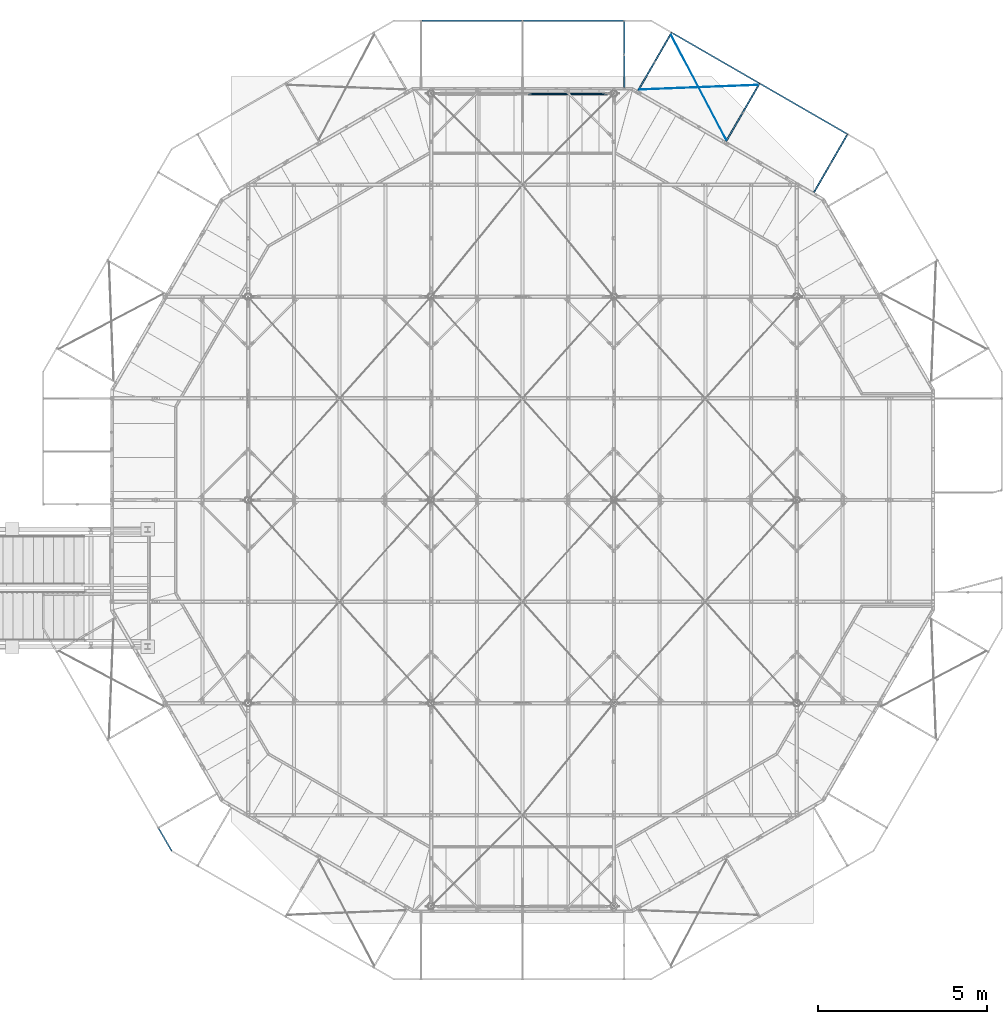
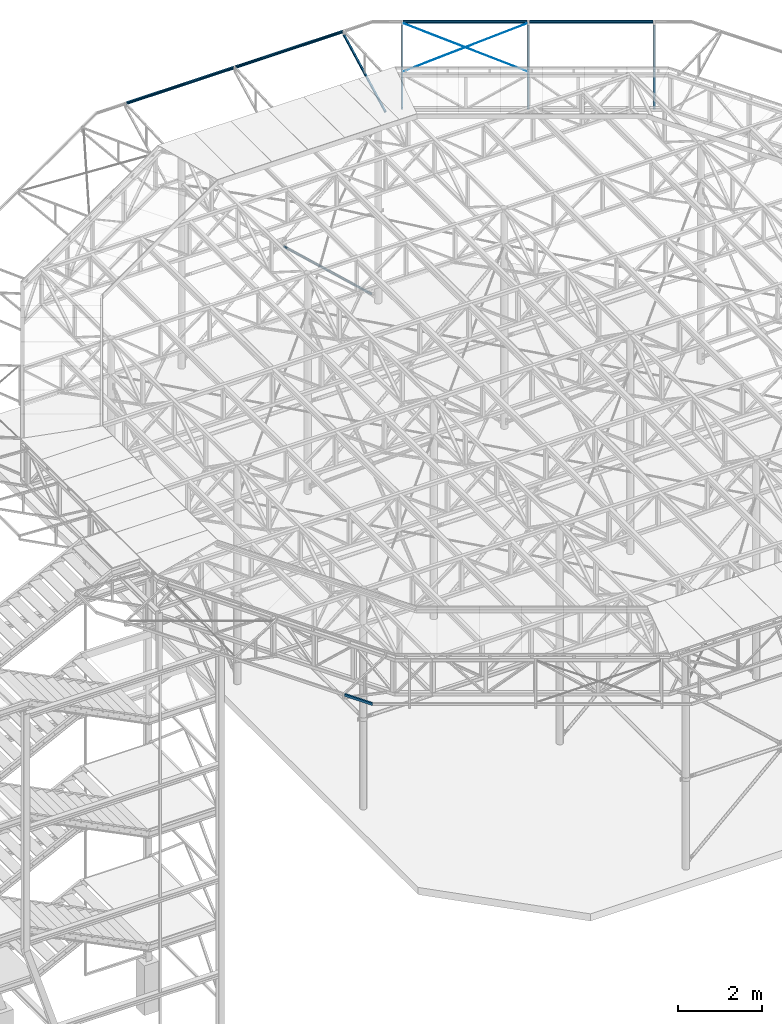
# One storey, part 20 of 132: 7 beams, 5 members, 12 elements without a shape of their own.
"""IFC2X3 building model written with IfcOpenShell, lengths in millimetres."""

from ifc_helpers import new_model, si_unit, frame, origin_with_axes, origin_2d_with_axis, place, context, subcontext, project, spatial, rectangle, hollow_rectangle, circle, hollow_circle, u_section, extrude, boolean, clip, halfspace, material, type_object, element, aggregate, save


model = new_model("IFC2X3")

# Units and contexts
model_context = context("Model", 3, precision=1e-05, world=origin_with_axes())
body_context = subcontext(model_context, "Body", "Model", "MODEL_VIEW")
ifc_project = project(units=[si_unit("LENGTHUNIT", "METRE", prefix="MILLI"), si_unit("AREAUNIT", "SQUARE_METRE"), si_unit("VOLUMEUNIT", "CUBIC_METRE"), si_unit("MASSUNIT", "GRAM", prefix="KILO"), si_unit("TIMEUNIT", "SECOND"), si_unit("PLANEANGLEUNIT", "RADIAN"), si_unit("SOLIDANGLEUNIT", "STERADIAN"), si_unit("THERMODYNAMICTEMPERATUREUNIT", "DEGREE_CELSIUS"), si_unit("LUMINOUSINTENSITYUNIT", "LUMEN")], contexts=[model_context])

# Site, building, storey
site_placement = place(None, origin_with_axes())
site = spatial("IfcSite", under=ifc_project, at=site_placement, Name="Budowa", CompositionType="ELEMENT")
building_placement = place(site_placement, origin_with_axes())
building = spatial("IfcBuilding", under=site, at=building_placement, Name="Undefined", CompositionType="ELEMENT")
storey_placement = place(building_placement, origin_with_axes())
storey = spatial("IfcBuildingStorey", under=building, at=storey_placement, Name="Undefined", CompositionType="ELEMENT", Elevation=0.0)

# Assembly, member
assembly_1_placement = place(storey_placement, origin_with_axes())
assembly_1 = element("IfcElementAssembly", 1, at=assembly_1_placement, inside=storey, Name="Steel Assembly", AssemblyPlace="NOTDEFINED", PredefinedType="RIGID_FRAME")
ifc_material = material(Name="STEEL/S235")
member_type_1 = type_object("IfcMemberType", Name="CHS60.3*6.3", PredefinedType="NOTDEFINED")
member_1_placement = place(assembly_1_placement, frame((12125.0013347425, 23992.0000000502, 10116.0003779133), z_axis=(0.0, -1.0, 0.0), x_axis=(0.734552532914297, 0.0, -0.678551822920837)))
member_1 = element("IfcMember", 2, at=member_1_placement, type_object=member_type_1, material=ifc_material, Name="BEAM", ObjectType="CHS60.3*6.3", context=body_context, shape_type="CSG", body=[
    boolean("DIFFERENCE", boolean("DIFFERENCE", boolean("DIFFERENCE", boolean("DIFFERENCE", extrude(hollow_circle(Radius=30.15, WallThickness=6.3, at=origin_2d_with_axis()), frame((3409.19575233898, -1.89248380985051e-13, -3.63797880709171e-12), z_axis=(-1.0, 0.0, 0.0), x_axis=(0.0, -1.0, 0.0)), (0.0, 0.0, 1.0), 3266.98), extrude(rectangle(XDim=8.0, YDim=64.3, at=origin_2d_with_axis()), frame((3359.19575233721, 2.18269846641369e-12, 2.70281816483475e-06), z_axis=(1.0, 0.0, 0.0), x_axis=(0.0, 0.0, -1.0)), (0.0, 0.0, 1.0), 52.0)), extrude(rectangle(XDim=8.0, YDim=64.3, at=origin_2d_with_axis()), frame((192.216896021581, -3.32911476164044e-12, 2.323435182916e-06), z_axis=(-1.0, 0.0, 0.0), x_axis=(0.0, 0.0, -1.0)), (0.0, 0.0, 1.0), 52.0)), halfspace(frame((3409.1957523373, 0.0, -11.9999972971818), z_axis=(-1.0, 0.0, 0.0), x_axis=(0.0, 1.0, 0.0)), True)), halfspace(frame((142.216896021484, -5.45696821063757e-12, -11.9999976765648), z_axis=(1.0, 0.0, 0.0), x_axis=(0.0, -1.0, 0.0)), True)),
])
aggregate(assembly_1, [member_1])

# Assembly, beam
assembly_2_placement = place(storey_placement, origin_with_axes())
assembly_2 = element("IfcElementAssembly", 3, at=assembly_2_placement, inside=storey, Name="Steel Assembly", AssemblyPlace="NOTDEFINED", PredefinedType="RIGID_FRAME")
beam_type_1 = type_object("IfcBeamType", Name="D10", PredefinedType="NOTDEFINED")
beam_1_placement = place(assembly_2_placement, frame((19068.4339772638, 24255.8214256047, 13945.5281319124), z_axis=(-0.0249673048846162, -0.0432481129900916, 0.998752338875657), x_axis=(-0.998878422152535, -0.0391265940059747, -0.026664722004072)))
beam_1 = element("IfcBeam", 4, at=beam_1_placement, type_object=beam_type_1, material=ifc_material, Name="BEAM", ObjectType="D10", context=body_context, shape_type="SweptSolid", body=[
    extrude(circle(Radius=5.0, at=origin_2d_with_axis()), frame((3489.02120950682, 1.67199953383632e-13, 1.2104974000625e-14), z_axis=(-1.0, 0.0, 0.0), x_axis=(0.0, -1.0, 0.0)), (0.0, 0.0, 1.0), 3489.02),
])
aggregate(assembly_2, [beam_1])

assembly_3_placement = place(storey_placement, origin_with_axes())
assembly_3 = element("IfcElementAssembly", 5, at=assembly_3_placement, inside=storey, Name="Steel Assembly", AssemblyPlace="NOTDEFINED", PredefinedType="RIGID_FRAME")
beam_2_placement = place(assembly_3_placement, frame((16513.607755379, 25730.7326013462, 13945.5281319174), z_axis=(-0.0249673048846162, -0.0432481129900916, 0.998752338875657), x_axis=(0.465616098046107, -0.884585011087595, -0.0266647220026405)))
beam_2 = element("IfcBeam", 6, at=beam_2_placement, type_object=beam_type_1, material=ifc_material, Name="BEAM", ObjectType="D10", context=body_context, shape_type="SweptSolid", body=[
    extrude(circle(Radius=5.0, at=origin_2d_with_axis()), frame((3489.02120950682, 1.67199953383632e-13, 1.2104974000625e-14), z_axis=(-1.0, 0.0, 0.0), x_axis=(0.0, -1.0, 0.0)), (0.0, 0.0, 1.0), 3489.02),
])
aggregate(assembly_3, [beam_2])

assembly_4_placement = place(storey_placement, origin_with_axes())
assembly_4 = element("IfcElementAssembly", 7, at=assembly_4_placement, inside=storey, Name="Steel Assembly", AssemblyPlace="NOTDEFINED", PredefinedType="RIGID_FRAME")
beam_type_2 = type_object("IfcBeamType", Name="C70*40*4", PredefinedType="NOTDEFINED")
beam_3_placement = place(assembly_4_placement, frame((1379.47995579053, 2301.46854415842, 13945.0050192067), z_axis=(4.94588018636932e-06, -8.5667924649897e-06, -0.999999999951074), x_axis=(0.499978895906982, -0.866037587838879, 9.89199999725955e-06)))
beam_3 = element("IfcBeam", 8, at=beam_3_placement, type_object=beam_type_2, material=ifc_material, Name="BEAM", ObjectType="C70*40*4", context=body_context, shape_type="Clipping", body=[
    clip(extrude(u_section(Depth=70.0, FlangeWidth=40.0, WebThickness=4.0, FlangeThickness=4.0, FilletRadius=6.0, at=origin_2d_with_axis()), frame((804.029722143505, 5.3051362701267e-13, 1.81899076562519e-12), z_axis=(-1.0, 0.0, 0.0), x_axis=(0.0, -1.0, 0.0)), (0.0, 0.0, 1.0), 804.03), halfspace(frame((771.695078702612, 20.0005997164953, 0.00723795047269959), z_axis=(-0.965915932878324, 0.258855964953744, -4.43426439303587e-06), x_axis=(1.64676862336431e-10, 1.71308528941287e-05, 0.999999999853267)), True)),
])
aggregate(assembly_4, [beam_3])

assembly_5_placement = place(storey_placement, origin_with_axes())
assembly_5 = element("IfcElementAssembly", 9, at=assembly_5_placement, inside=storey, Name="Steel Assembly", AssemblyPlace="NOTDEFINED", PredefinedType="RIGID_FRAME")
beam_4_placement = place(assembly_5_placement, frame((19103.1382994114, 24315.9359007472, 13945.0050192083), z_axis=(0.0, 0.0, -1.0), x_axis=(-0.866042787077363, 0.499969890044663, 0.0)))
beam_4 = element("IfcBeam", 10, at=beam_4_placement, type_object=beam_type_2, material=ifc_material, Name="BEAM", ObjectType="C70*40*4", context=body_context, shape_type="SweptSolid", body=[
    extrude(u_section(Depth=70.0, FlangeWidth=40.0, WebThickness=4.0, FlangeThickness=4.0, FilletRadius=6.0, at=origin_2d_with_axis()), frame((2949.99999995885, 1.63757896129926e-13, 0.0), z_axis=(-1.0, 0.0, 0.0), x_axis=(0.0, -1.0, 0.0)), (0.0, 0.0, 1.0), 2950.0),
])
aggregate(assembly_5, [beam_4])

assembly_6_placement = place(storey_placement, origin_with_axes())
assembly_6 = element("IfcElementAssembly", 11, at=assembly_6_placement, inside=storey, Name="Steel Assembly", AssemblyPlace="NOTDEFINED", PredefinedType="RIGID_FRAME")
beam_5_placement = place(assembly_6_placement, frame((21701.2666606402, 22816.0262306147, 13945.0050192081), z_axis=(0.0, 0.0, -1.0), x_axis=(-0.866042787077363, 0.499969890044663, 0.0)))
beam_5 = element("IfcBeam", 12, at=beam_5_placement, type_object=beam_type_2, material=ifc_material, Name="BEAM", ObjectType="C70*40*4", context=body_context, shape_type="SweptSolid", body=[
    extrude(u_section(Depth=70.0, FlangeWidth=40.0, WebThickness=4.0, FlangeThickness=4.0, FilletRadius=6.0, at=origin_2d_with_axis()), frame((2949.99999995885, 1.63757896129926e-13, 0.0), z_axis=(-1.0, 0.0, 0.0), x_axis=(0.0, -1.0, 0.0)), (0.0, 0.0, 1.0), 2950.0),
])
aggregate(assembly_6, [beam_5])

assembly_7_placement = place(storey_placement, origin_with_axes())
assembly_7 = element("IfcElementAssembly", 13, at=assembly_7_placement, inside=storey, Name="Steel Assembly", AssemblyPlace="NOTDEFINED", PredefinedType="RIGID_FRAME")
beam_6_placement = place(assembly_7_placement, frame((15099.9999999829, 26155.0003815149, 13945.0050191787), z_axis=(0.0, 0.0, -1.0), x_axis=(-1.0, 0.0, 0.0)))
beam_6 = element("IfcBeam", 14, at=beam_6_placement, type_object=beam_type_2, material=ifc_material, Name="BEAM", ObjectType="C70*40*4", context=body_context, shape_type="SweptSolid", body=[
    extrude(u_section(Depth=70.0, FlangeWidth=40.0, WebThickness=4.0, FlangeThickness=4.0, FilletRadius=6.0, at=origin_2d_with_axis()), frame((2949.99999995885, 1.63757896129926e-13, 0.0), z_axis=(-1.0, 0.0, 0.0), x_axis=(0.0, -1.0, 0.0)), (0.0, 0.0, 1.0), 2950.0),
])
aggregate(assembly_7, [beam_6])

assembly_8_placement = place(storey_placement, origin_with_axes())
assembly_8 = element("IfcElementAssembly", 15, at=assembly_8_placement, inside=storey, Name="Steel Assembly", AssemblyPlace="NOTDEFINED", PredefinedType="RIGID_FRAME")
beam_7_placement = place(assembly_8_placement, frame((12099.9999999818, 26155.0003815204, 13945.0050191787), z_axis=(0.0, 0.0, -1.0), x_axis=(-1.0, 0.0, 0.0)))
beam_7 = element("IfcBeam", 16, at=beam_7_placement, type_object=beam_type_2, material=ifc_material, Name="BEAM", ObjectType="C70*40*4", context=body_context, shape_type="SweptSolid", body=[
    extrude(u_section(Depth=70.0, FlangeWidth=40.0, WebThickness=4.0, FlangeThickness=4.0, FilletRadius=6.0, at=origin_2d_with_axis()), frame((2949.99999995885, 1.63757896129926e-13, 0.0), z_axis=(-1.0, 0.0, 0.0), x_axis=(0.0, -1.0, 0.0)), (0.0, 0.0, 1.0), 2950.0),
])
aggregate(assembly_8, [beam_7])

# Assembly, member
assembly_9_placement = place(storey_placement, origin_with_axes())
assembly_9 = element("IfcElementAssembly", 17, at=assembly_9_placement, inside=storey, Name="Steel Assembly", AssemblyPlace="NOTDEFINED", PredefinedType="RIGID_FRAME")
member_type_2 = type_object("IfcMemberType", Name="SHS50*4", PredefinedType="NOTDEFINED")
member_2_placement = place(assembly_9_placement, frame((20727.1173157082, 21078.6115763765, 12802.1351883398), z_axis=(0.866042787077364, -0.499969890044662, 0.0), x_axis=(0.442677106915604, 0.766800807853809, 0.464815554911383)))
member_2 = element("IfcMember", 18, at=member_2_placement, type_object=member_type_2, material=ifc_material, Name="BEAM", ObjectType="SHS50*4", context=body_context, shape_type="Clipping", body=[
    clip(clip(extrude(hollow_rectangle(XDim=50.0, YDim=50.0, WallThickness=4.0, InnerFilletRadius=4.0, OuterFilletRadius=8.0, at=origin_2d_with_axis()), frame((2325.27637080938, 1.2907876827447e-13, 5.21059351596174e-14), z_axis=(-1.0, 0.0, 0.0), x_axis=(0.0, -1.0, 0.0)), (0.0, 0.0, 1.0), 2325.28), halfspace(frame((26.2486785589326, 24.9999999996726, -25.0000000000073), z_axis=(-0.885407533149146, 0.464815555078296, 0.0), x_axis=(0.0, 0.0, 1.0)), False)), halfspace(frame((2258.9602037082, -25.0000000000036, -1.40062184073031e-10), z_axis=(-0.855808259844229, -0.517293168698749, 0.0), x_axis=(0.0, 0.0, -1.0)), True)),
])
aggregate(assembly_9, [member_2])

assembly_10_placement = place(storey_placement, origin_with_axes())
assembly_10 = element("IfcElementAssembly", 19, at=assembly_10_placement, inside=storey, Name="Steel Assembly", AssemblyPlace="NOTDEFINED", PredefinedType="RIGID_FRAME")
member_3_placement = place(assembly_10_placement, frame((15530.8605932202, 24078.4309166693, 12802.1351883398), z_axis=(0.866042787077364, -0.499969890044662, 0.0), x_axis=(0.442677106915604, 0.766800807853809, 0.464815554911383)))
member_3 = element("IfcMember", 20, at=member_3_placement, type_object=member_type_2, material=ifc_material, Name="BEAM", ObjectType="SHS50*4", context=body_context, shape_type="Clipping", body=[
    clip(clip(extrude(hollow_rectangle(XDim=50.0, YDim=50.0, WallThickness=4.0, InnerFilletRadius=4.0, OuterFilletRadius=8.0, at=origin_2d_with_axis()), frame((2325.27637080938, 1.2907876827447e-13, 5.21059351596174e-14), z_axis=(-1.0, 0.0, 0.0), x_axis=(0.0, -1.0, 0.0)), (0.0, 0.0, 1.0), 2325.28), halfspace(frame((26.2486785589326, 24.9999999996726, -25.0000000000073), z_axis=(-0.885407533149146, 0.464815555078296, 0.0), x_axis=(0.0, 0.0, 1.0)), False)), halfspace(frame((2258.9602037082, -25.0000000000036, -1.40062184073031e-10), z_axis=(-0.855808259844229, -0.517293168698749, 0.0), x_axis=(0.0, 0.0, -1.0)), True)),
])
aggregate(assembly_10, [member_3])

assembly_11_placement = place(storey_placement, origin_with_axes())
assembly_11 = element("IfcElementAssembly", 21, at=assembly_11_placement, inside=storey, Name="Steel Assembly", AssemblyPlace="NOTDEFINED", PredefinedType="RIGID_FRAME")
member_4_placement = place(assembly_11_placement, frame((18128.9889544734, 22578.5212465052, 12802.1351883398), z_axis=(0.866042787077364, -0.499969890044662, 0.0), x_axis=(0.442677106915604, 0.766800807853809, 0.464815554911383)))
member_4 = element("IfcMember", 22, at=member_4_placement, type_object=member_type_2, material=ifc_material, Name="BEAM", ObjectType="SHS50*4", context=body_context, shape_type="Clipping", body=[
    clip(clip(extrude(hollow_rectangle(XDim=50.0, YDim=50.0, WallThickness=4.0, InnerFilletRadius=4.0, OuterFilletRadius=8.0, at=origin_2d_with_axis()), frame((2325.27637080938, 1.2907876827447e-13, 5.21059351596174e-14), z_axis=(-1.0, 0.0, 0.0), x_axis=(0.0, -1.0, 0.0)), (0.0, 0.0, 1.0), 2325.28), halfspace(frame((26.2486785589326, 24.9999999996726, -25.0000000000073), z_axis=(-0.885407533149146, 0.464815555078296, 0.0), x_axis=(0.0, 0.0, 1.0)), False)), halfspace(frame((2258.9602037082, -25.0000000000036, -1.40062184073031e-10), z_axis=(-0.855808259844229, -0.517293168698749, 0.0), x_axis=(0.0, 0.0, -1.0)), True)),
])
aggregate(assembly_11, [member_4])

assembly_12_placement = place(storey_placement, origin_with_axes())
assembly_12 = element("IfcElementAssembly", 23, at=assembly_12_placement, inside=storey, Name="Steel Assembly", AssemblyPlace="NOTDEFINED", PredefinedType="RIGID_FRAME")
member_5_placement = place(assembly_12_placement, frame((15124.9999999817, 24163.2796111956, 12802.1351883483), z_axis=(1.0, 0.0, 0.0), x_axis=(0.0, 0.885407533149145, 0.464815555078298)))
member_5 = element("IfcMember", 24, at=member_5_placement, type_object=member_type_2, material=ifc_material, Name="BEAM", ObjectType="SHS50*4", context=body_context, shape_type="Clipping", body=[
    clip(clip(extrude(hollow_rectangle(XDim=50.0, YDim=50.0, WallThickness=4.0, InnerFilletRadius=4.0, OuterFilletRadius=8.0, at=origin_2d_with_axis()), frame((2286.55526217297, 7.105427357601e-15, -1.81898940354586e-12), z_axis=(-1.0, 0.0, 0.0), x_axis=(0.0, -1.0, 0.0)), (0.0, 0.0, 1.0), 2286.56), halfspace(frame((26.2486785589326, 24.9999999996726, -25.0000000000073), z_axis=(-0.885407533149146, 0.464815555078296, 0.0), x_axis=(0.0, 0.0, 1.0)), False)), halfspace(frame((2258.9602037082, -25.0000000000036, -1.40062184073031e-10), z_axis=(-0.855808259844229, -0.517293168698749, 0.0), x_axis=(0.0, 0.0, -1.0)), True)),
])
aggregate(assembly_12, [member_5])

save(model, "model.ifc")
